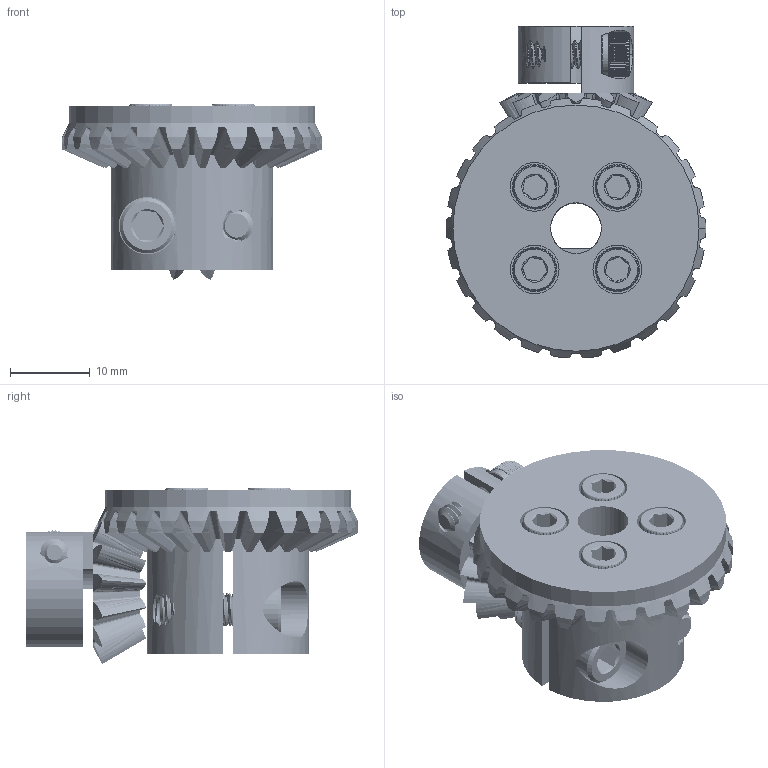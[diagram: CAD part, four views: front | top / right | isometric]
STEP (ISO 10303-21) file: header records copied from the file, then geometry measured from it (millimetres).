
FILE_DESCRIPTION (( 'STEP AP203' ), '1' );
FILE_NAME ('637222 Assembly.STEP', '2019-10-25T16:25:06', ( '' ), ( '' ), 'SwSTEP 2.0', 'SolidWorks 2016', '' );
FILE_SCHEMA (( 'CONFIG_CONTROL_DESIGN' ));
Products named in the file (9): 637222 Assembly; 545694 screw_91864A024; 545694; 615456; 615460; 615456 assembly; 632110_90128A121; 632108_90128A121; 545694 assembly
Assembly tree (12 placements, depth 3):
  637222 Assembly
    615460
    615456 assembly
      615456
      632110_90128A121
    545694 assembly
      545694
      545694 screw_91864A024  x2
    632108_90128A121  x4
Bounding box: 32.51 x 41.52 x 22 mm (x, y, z)
Volume: 9611.5 mm3; surface area: 9661.3 mm2
Topology: 10 solids, 10 shells, 5301 faces, 13098 edges, 7834 vertices
Faces by surface type: bspline 2491, cylinder 1861, plane 700, cone 154, torus 95
Entity records: 157139 total; most frequent: CARTESIAN_POINT 104825, ORIENTED_EDGE 13318, DIRECTION 7370, EDGE_CURVE 6659, VERTEX_POINT 4082, AXIS2_PLACEMENT_3D 2984, B_SPLINE_CURVE_WITH_KNOTS 2803, EDGE_LOOP 2641
